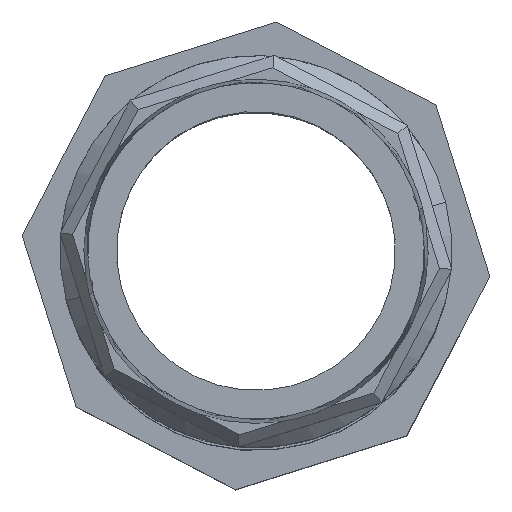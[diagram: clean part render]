
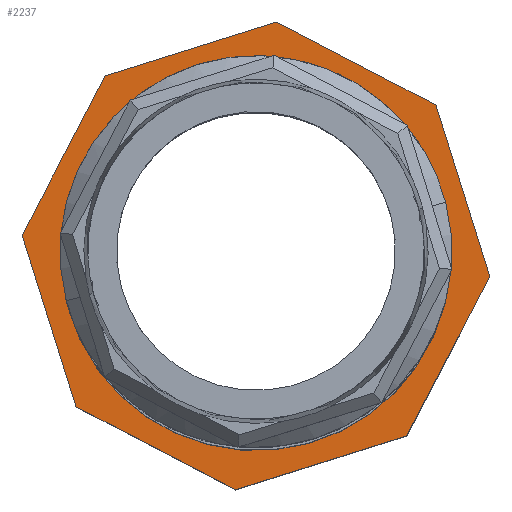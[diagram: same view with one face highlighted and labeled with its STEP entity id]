
A CAD part, top view. The second image highlights one B-rep face of the part: STEP entity #2237.
In plain terms, the highlighted planar face has unit normal (0, 0, 1).
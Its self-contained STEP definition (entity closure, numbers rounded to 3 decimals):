
#138 = LINE ( 'NONE', #140, #4076 ) ;
#140 = CARTESIAN_POINT ( 'NONE',  ( 23.698, 30.098, -225.854 ) ) ;
#141 = DIRECTION ( 'NONE',  ( 0.299, -0.954, 0. ) ) ;
#144 = LINE ( 'NONE', #146, #4120 ) ;
#146 = CARTESIAN_POINT ( 'NONE',  ( -4.06, 44.593, -225.854 ) ) ;
#147 = DIRECTION ( 'NONE',  ( 0.886, -0.463, 0. ) ) ;
#153 = LINE ( 'NONE', #154, #4087 ) ;
#154 = CARTESIAN_POINT ( 'NONE',  ( -33.937, 35.215, -225.854 ) ) ;
#155 = DIRECTION ( 'NONE',  ( 0.954, 0.299, 0. ) ) ;
#611 = CARTESIAN_POINT ( 'NONE',  ( 17.067, 51.224, -225.854 ) ) ;
#616 = FACE_OUTER_BOUND ( 'NONE', #3056, .T. ) ;
#620 = FACE_BOUND ( 'NONE', #3058, .T. ) ;
#621 = PLANE ( 'NONE',  #3901 ) ;
#623 = DIRECTION ( 'NONE',  ( 0., 0., -1. ) ) ;
#624 = DIRECTION ( 'NONE',  ( -0.963, -0.268, 0. ) ) ;
#1129 = ORIENTED_EDGE ( 'NONE', *, *, #2030, .T. ) ;
#1130 = ORIENTED_EDGE ( 'NONE', *, *, #2284, .T. ) ;
#1131 = ORIENTED_EDGE ( 'NONE', *, *, #2125, .F. ) ;
#1132 = ORIENTED_EDGE ( 'NONE', *, *, #2029, .F. ) ;
#1133 = ORIENTED_EDGE ( 'NONE', *, *, #2027, .F. ) ;
#1134 = ORIENTED_EDGE ( 'NONE', *, *, #2025, .F. ) ;
#1135 = ORIENTED_EDGE ( 'NONE', *, *, #2023, .F. ) ;
#1136 = ORIENTED_EDGE ( 'NONE', *, *, #2021, .F. ) ;
#1137 = ORIENTED_EDGE ( 'NONE', *, *, #2120, .F. ) ;
#1138 = ORIENTED_EDGE ( 'NONE', *, *, #2122, .F. ) ;
#2021 = EDGE_CURVE ( 'NONE', #2819, #2841, #3064, .T. ) ;
#2023 = EDGE_CURVE ( 'NONE', #2841, #2845, #2816, .T. ) ;
#2025 = EDGE_CURVE ( 'NONE', #2845, #2844, #2929, .T. ) ;
#2027 = EDGE_CURVE ( 'NONE', #2844, #2828, #3068, .T. ) ;
#2029 = EDGE_CURVE ( 'NONE', #2828, #2835, #3074, .T. ) ;
#2030 = EDGE_CURVE ( 'NONE', #2807, #4454, #4048, .T. ) ;
#2120 = EDGE_CURVE ( 'NONE', #2834, #2819, #138, .T. ) ;
#2122 = EDGE_CURVE ( 'NONE', #2820, #2834, #144, .T. ) ;
#2125 = EDGE_CURVE ( 'NONE', #2835, #2820, #153, .T. ) ;
#2237 = ADVANCED_FACE ( 'NONE', ( #620, #616 ), #621, .F. ) ;
#2284 = EDGE_CURVE ( 'NONE', #4454, #2807, #3841, .T. ) ;
#2628 = CARTESIAN_POINT ( 'NONE',  ( -7.678, 3.839, -225.854 ) ) ;
#2629 = DIRECTION ( 'NONE',  ( 0., 0., -1. ) ) ;
#2630 = DIRECTION ( 'NONE',  ( -0.963, -0.268, 0. ) ) ;
#2807 = VERTEX_POINT ( 'NONE', #3640 ) ;
#2816 = LINE ( 'NONE', #3071, #4110 ) ;
#2819 = VERTEX_POINT ( 'NONE', #3650 ) ;
#2820 = VERTEX_POINT ( 'NONE', #3651 ) ;
#2828 = VERTEX_POINT ( 'NONE', #3659 ) ;
#2834 = VERTEX_POINT ( 'NONE', #3665 ) ;
#2835 = VERTEX_POINT ( 'NONE', #3666 ) ;
#2841 = VERTEX_POINT ( 'NONE', #3672 ) ;
#2844 = VERTEX_POINT ( 'NONE', #3675 ) ;
#2845 = VERTEX_POINT ( 'NONE', #3676 ) ;
#2929 = LINE ( 'NONE', #3077, #4062 ) ;
#3056 = EDGE_LOOP ( 'NONE', ( #1131, #1132, #1133, #1134, #1135, #1136, #1137, #1138 ) ) ;
#3058 = EDGE_LOOP ( 'NONE', ( #1129, #1130 ) ) ;
#3064 = LINE ( 'NONE', #3065, #4085 ) ;
#3065 = CARTESIAN_POINT ( 'NONE',  ( 33.076, 0.221, -225.854 ) ) ;
#3066 = DIRECTION ( 'NONE',  ( -0.463, -0.886, 0. ) ) ;
#3068 = LINE ( 'NONE', #3082, #4084 ) ;
#3071 = CARTESIAN_POINT ( 'NONE',  ( 18.581, -27.537, -225.854 ) ) ;
#3072 = DIRECTION ( 'NONE',  ( -0.954, -0.299, 0. ) ) ;
#3074 = LINE ( 'NONE', #3087, #4054 ) ;
#3077 = CARTESIAN_POINT ( 'NONE',  ( -11.296, -36.915, -225.854 ) ) ;
#3078 = DIRECTION ( 'NONE',  ( -0.886, 0.463, 0. ) ) ;
#3082 = CARTESIAN_POINT ( 'NONE',  ( -39.054, -22.42, -225.854 ) ) ;
#3083 = DIRECTION ( 'NONE',  ( -0.299, 0.954, 0. ) ) ;
#3087 = CARTESIAN_POINT ( 'NONE',  ( -48.432, 7.457, -225.854 ) ) ;
#3088 = DIRECTION ( 'NONE',  ( 0.463, 0.886, 0. ) ) ;
#3089 = CARTESIAN_POINT ( 'NONE',  ( -7.678, 3.839, -225.854 ) ) ;
#3090 = DIRECTION ( 'NONE',  ( 0., 0., -1. ) ) ;
#3091 = DIRECTION ( 'NONE',  ( -0.963, -0.268, 0. ) ) ;
#3640 = CARTESIAN_POINT ( 'NONE',  ( -36.58, -4.202, -225.854 ) ) ;
#3650 = CARTESIAN_POINT ( 'NONE',  ( 33.076, 0.221, -225.854 ) ) ;
#3651 = CARTESIAN_POINT ( 'NONE',  ( -4.06, 44.593, -225.854 ) ) ;
#3659 = CARTESIAN_POINT ( 'NONE',  ( -48.432, 7.457, -225.854 ) ) ;
#3665 = CARTESIAN_POINT ( 'NONE',  ( 23.698, 30.098, -225.854 ) ) ;
#3666 = CARTESIAN_POINT ( 'NONE',  ( -33.937, 35.215, -225.854 ) ) ;
#3672 = CARTESIAN_POINT ( 'NONE',  ( 18.581, -27.537, -225.854 ) ) ;
#3675 = CARTESIAN_POINT ( 'NONE',  ( -39.054, -22.42, -225.854 ) ) ;
#3676 = CARTESIAN_POINT ( 'NONE',  ( -11.296, -36.915, -225.854 ) ) ;
#3700 = CARTESIAN_POINT ( 'NONE',  ( 21.225, 11.879, -225.854 ) ) ;
#3834 = AXIS2_PLACEMENT_3D ( 'NONE', #2628, #2629, #2630 ) ;
#3841 = CIRCLE ( 'NONE', #3834, 30. ) ;
#3901 = AXIS2_PLACEMENT_3D ( 'NONE', #611, #623, #624 ) ;
#4046 = AXIS2_PLACEMENT_3D ( 'NONE', #3089, #3090, #3091 ) ;
#4048 = CIRCLE ( 'NONE', #4046, 30. ) ;
#4054 = VECTOR ( 'NONE', #3088, 1000. ) ;
#4062 = VECTOR ( 'NONE', #3078, 1000. ) ;
#4076 = VECTOR ( 'NONE', #141, 1000. ) ;
#4084 = VECTOR ( 'NONE', #3083, 1000. ) ;
#4085 = VECTOR ( 'NONE', #3066, 1000. ) ;
#4087 = VECTOR ( 'NONE', #155, 1000. ) ;
#4110 = VECTOR ( 'NONE', #3072, 1000. ) ;
#4120 = VECTOR ( 'NONE', #147, 1000. ) ;
#4454 = VERTEX_POINT ( 'NONE', #3700 ) ;
